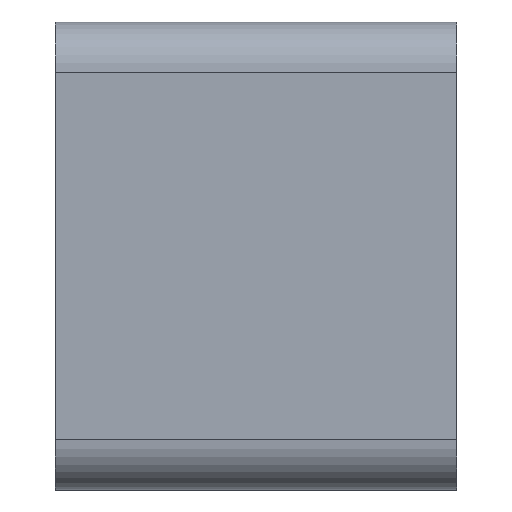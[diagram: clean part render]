
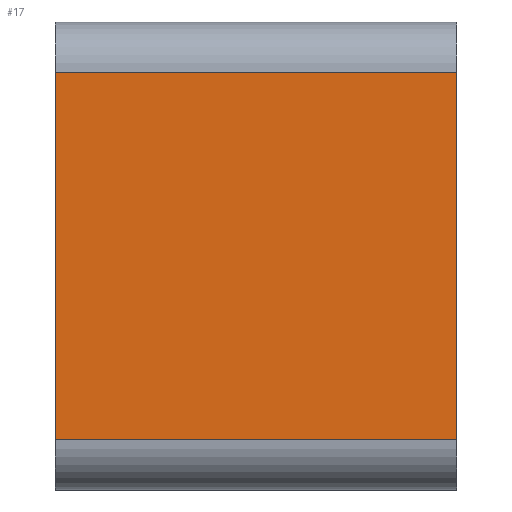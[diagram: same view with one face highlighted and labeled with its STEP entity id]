
A CAD part, left-side view. The second image highlights one B-rep face of the part: STEP entity #17.
In plain terms, the highlighted planar face has unit normal (-1, 0, 0).
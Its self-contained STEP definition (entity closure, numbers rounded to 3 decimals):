
#17 = ADVANCED_FACE('',(#18),#32,.F.);
#18 = FACE_BOUND('',#19,.F.);
#19 = EDGE_LOOP('',(#20,#55,#83,#111));
#20 = ORIENTED_EDGE('',*,*,#21,.F.);
#21 = EDGE_CURVE('',#22,#24,#26,.T.);
#22 = VERTEX_POINT('',#23);
#23 = CARTESIAN_POINT('',(-14.,-12.,-11.));
#24 = VERTEX_POINT('',#25);
#25 = CARTESIAN_POINT('',(-14.,-12.,11.));
#26 = SURFACE_CURVE('',#27,(#31,#43),.PCURVE_S1.);
#27 = LINE('',#28,#29);
#28 = CARTESIAN_POINT('',(-14.,-12.,-14.));
#29 = VECTOR('',#30,1.);
#30 = DIRECTION('',(0.,0.,1.));
#31 = PCURVE('',#32,#37);
#32 = PLANE('',#33);
#33 = AXIS2_PLACEMENT_3D('',#34,#35,#36);
#34 = CARTESIAN_POINT('',(-14.,-12.,-14.));
#35 = DIRECTION('',(1.,0.,0.));
#36 = DIRECTION('',(0.,0.,1.));
#37 = DEFINITIONAL_REPRESENTATION('',(#38),#42);
#38 = LINE('',#39,#40);
#39 = CARTESIAN_POINT('',(0.,0.));
#40 = VECTOR('',#41,1.);
#41 = DIRECTION('',(1.,0.));
#42 = ( GEOMETRIC_REPRESENTATION_CONTEXT(2) 
PARAMETRIC_REPRESENTATION_CONTEXT() REPRESENTATION_CONTEXT('2D SPACE',''
  ) );
#43 = PCURVE('',#44,#49);
#44 = PLANE('',#45);
#45 = AXIS2_PLACEMENT_3D('',#46,#47,#48);
#46 = CARTESIAN_POINT('',(-14.,-12.,-14.));
#47 = DIRECTION('',(0.,1.,0.));
#48 = DIRECTION('',(0.,0.,1.));
#49 = DEFINITIONAL_REPRESENTATION('',(#50),#54);
#50 = LINE('',#51,#52);
#51 = CARTESIAN_POINT('',(0.,0.));
#52 = VECTOR('',#53,1.);
#53 = DIRECTION('',(1.,0.));
#54 = ( GEOMETRIC_REPRESENTATION_CONTEXT(2) 
PARAMETRIC_REPRESENTATION_CONTEXT() REPRESENTATION_CONTEXT('2D SPACE',''
  ) );
#55 = ORIENTED_EDGE('',*,*,#56,.T.);
#56 = EDGE_CURVE('',#22,#57,#59,.T.);
#57 = VERTEX_POINT('',#58);
#58 = CARTESIAN_POINT('',(-14.,12.,-11.));
#59 = SURFACE_CURVE('',#60,(#64,#71),.PCURVE_S1.);
#60 = LINE('',#61,#62);
#61 = CARTESIAN_POINT('',(-14.,-12.,-11.));
#62 = VECTOR('',#63,1.);
#63 = DIRECTION('',(0.,1.,0.));
#64 = PCURVE('',#32,#65);
#65 = DEFINITIONAL_REPRESENTATION('',(#66),#70);
#66 = LINE('',#67,#68);
#67 = CARTESIAN_POINT('',(3.,0.));
#68 = VECTOR('',#69,1.);
#69 = DIRECTION('',(0.,-1.));
#70 = ( GEOMETRIC_REPRESENTATION_CONTEXT(2) 
PARAMETRIC_REPRESENTATION_CONTEXT() REPRESENTATION_CONTEXT('2D SPACE',''
  ) );
#71 = PCURVE('',#72,#77);
#72 = CYLINDRICAL_SURFACE('',#73,3.);
#73 = AXIS2_PLACEMENT_3D('',#74,#75,#76);
#74 = CARTESIAN_POINT('',(-11.,-12.,-11.));
#75 = DIRECTION('',(0.,1.,0.));
#76 = DIRECTION('',(-1.,0.,0.));
#77 = DEFINITIONAL_REPRESENTATION('',(#78),#82);
#78 = LINE('',#79,#80);
#79 = CARTESIAN_POINT('',(-0.,0.));
#80 = VECTOR('',#81,1.);
#81 = DIRECTION('',(-0.,1.));
#82 = ( GEOMETRIC_REPRESENTATION_CONTEXT(2) 
PARAMETRIC_REPRESENTATION_CONTEXT() REPRESENTATION_CONTEXT('2D SPACE',''
  ) );
#83 = ORIENTED_EDGE('',*,*,#84,.T.);
#84 = EDGE_CURVE('',#57,#85,#87,.T.);
#85 = VERTEX_POINT('',#86);
#86 = CARTESIAN_POINT('',(-14.,12.,11.));
#87 = SURFACE_CURVE('',#88,(#92,#99),.PCURVE_S1.);
#88 = LINE('',#89,#90);
#89 = CARTESIAN_POINT('',(-14.,12.,-14.));
#90 = VECTOR('',#91,1.);
#91 = DIRECTION('',(0.,0.,1.));
#92 = PCURVE('',#32,#93);
#93 = DEFINITIONAL_REPRESENTATION('',(#94),#98);
#94 = LINE('',#95,#96);
#95 = CARTESIAN_POINT('',(0.,-24.));
#96 = VECTOR('',#97,1.);
#97 = DIRECTION('',(1.,0.));
#98 = ( GEOMETRIC_REPRESENTATION_CONTEXT(2) 
PARAMETRIC_REPRESENTATION_CONTEXT() REPRESENTATION_CONTEXT('2D SPACE',''
  ) );
#99 = PCURVE('',#100,#105);
#100 = PLANE('',#101);
#101 = AXIS2_PLACEMENT_3D('',#102,#103,#104);
#102 = CARTESIAN_POINT('',(-14.,12.,-14.));
#103 = DIRECTION('',(0.,1.,0.));
#104 = DIRECTION('',(0.,0.,1.));
#105 = DEFINITIONAL_REPRESENTATION('',(#106),#110);
#106 = LINE('',#107,#108);
#107 = CARTESIAN_POINT('',(0.,0.));
#108 = VECTOR('',#109,1.);
#109 = DIRECTION('',(1.,0.));
#110 = ( GEOMETRIC_REPRESENTATION_CONTEXT(2) 
PARAMETRIC_REPRESENTATION_CONTEXT() REPRESENTATION_CONTEXT('2D SPACE',''
  ) );
#111 = ORIENTED_EDGE('',*,*,#112,.F.);
#112 = EDGE_CURVE('',#24,#85,#113,.T.);
#113 = SURFACE_CURVE('',#114,(#118,#125),.PCURVE_S1.);
#114 = LINE('',#115,#116);
#115 = CARTESIAN_POINT('',(-14.,-12.,11.));
#116 = VECTOR('',#117,1.);
#117 = DIRECTION('',(0.,1.,0.));
#118 = PCURVE('',#32,#119);
#119 = DEFINITIONAL_REPRESENTATION('',(#120),#124);
#120 = LINE('',#121,#122);
#121 = CARTESIAN_POINT('',(25.,0.));
#122 = VECTOR('',#123,1.);
#123 = DIRECTION('',(0.,-1.));
#124 = ( GEOMETRIC_REPRESENTATION_CONTEXT(2) 
PARAMETRIC_REPRESENTATION_CONTEXT() REPRESENTATION_CONTEXT('2D SPACE',''
  ) );
#125 = PCURVE('',#126,#131);
#126 = CYLINDRICAL_SURFACE('',#127,3.);
#127 = AXIS2_PLACEMENT_3D('',#128,#129,#130);
#128 = CARTESIAN_POINT('',(-11.,-12.,11.));
#129 = DIRECTION('',(0.,1.,0.));
#130 = DIRECTION('',(-1.,0.,0.));
#131 = DEFINITIONAL_REPRESENTATION('',(#132),#136);
#132 = LINE('',#133,#134);
#133 = CARTESIAN_POINT('',(0.,0.));
#134 = VECTOR('',#135,1.);
#135 = DIRECTION('',(0.,1.));
#136 = ( GEOMETRIC_REPRESENTATION_CONTEXT(2) 
PARAMETRIC_REPRESENTATION_CONTEXT() REPRESENTATION_CONTEXT('2D SPACE',''
  ) );
